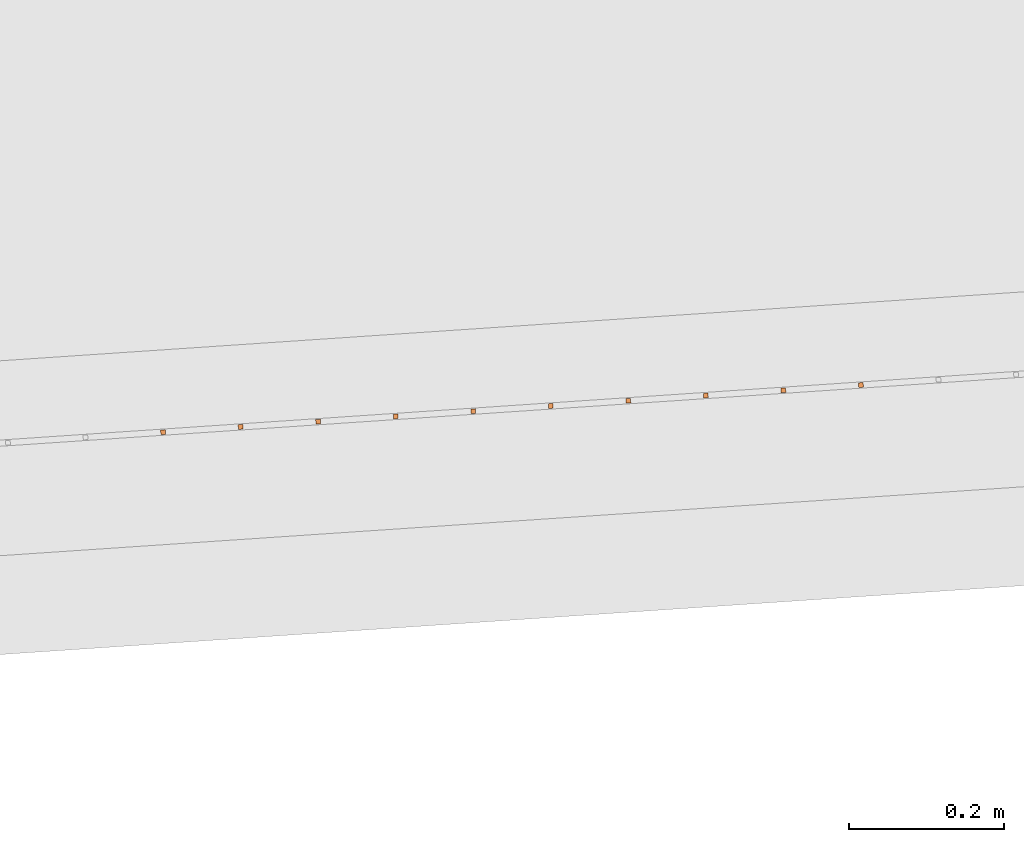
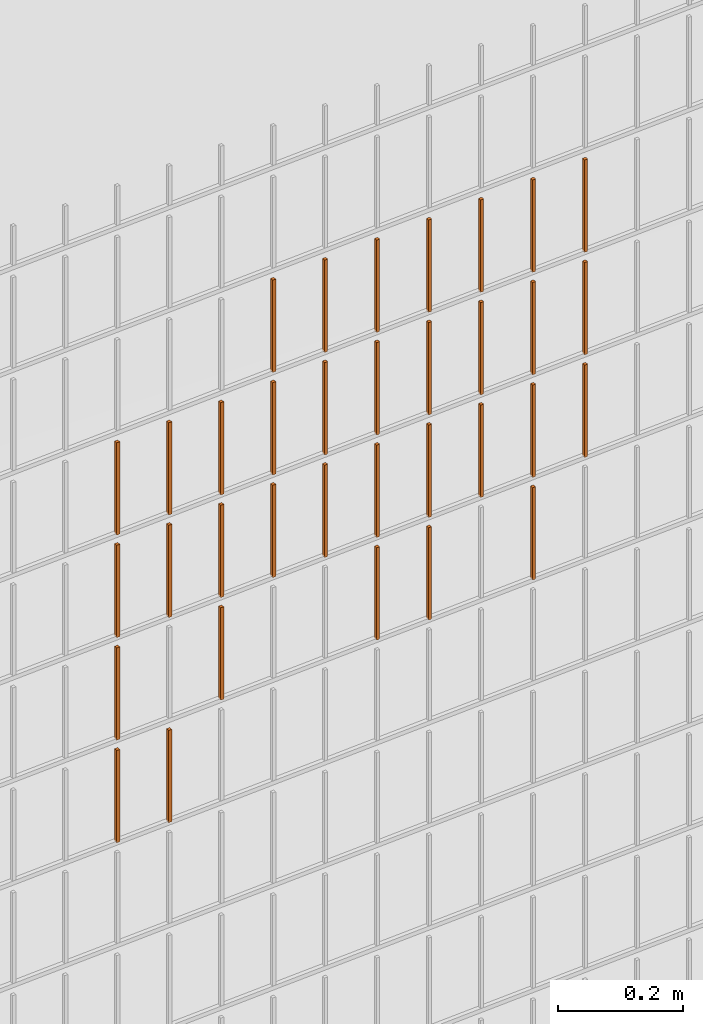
# One storey, part 332 of 1809: 34 proxies, 1 element without a shape of its own.
"""IFC2X3 building model written with IfcOpenShell, lengths in millimetres."""

from ifc_helpers import new_model, entity, si_unit, converted_unit, derived_unit, money_unit, direction, frame, origin_with_axes, place, context, subcontext, project, spatial, faceted_brep, source, transform, mapped, material, type_object, element, aggregate, save


model = new_model("IFC2X3")

# Units and contexts
model_context = context("Model", 3, precision=0.01, world=origin_with_axes(), true_north=direction((0.0, 1.0)))
body_context = subcontext(model_context, "Body", "Model", "MODEL_VIEW")
ifc_project = project(units=[si_unit("LENGTHUNIT", "METRE", prefix="MILLI"), si_unit("AREAUNIT", "SQUARE_METRE"), si_unit("VOLUMEUNIT", "CUBIC_METRE"), converted_unit("PLANEANGLEUNIT", "DEGREE", entity("IfcPlaneAngleMeasure", 0.0174532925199), si_unit("PLANEANGLEUNIT", "RADIAN"), dimensions=[0, 0, 0, 0, 0, 0, 0]), si_unit("SOLIDANGLEUNIT", "STERADIAN"), money_unit("EUR"), converted_unit("TIMEUNIT", "Year", entity("IfcTimeMeasure", 31556926.0), si_unit("TIMEUNIT", "SECOND"), dimensions=[0, 0, 1, 0, 0, 0, 0]), si_unit("MASSUNIT", "GRAM", prefix="KILO"), si_unit("THERMODYNAMICTEMPERATUREUNIT", "DEGREE_CELSIUS"), si_unit("LUMINOUSINTENSITYUNIT", "LUMEN"), si_unit("ENERGYUNIT", "JOULE", prefix="MEGA"), derived_unit("THERMALCONDUCTANCEUNIT", [(si_unit("POWERUNIT", "WATT"), 1), (si_unit("LENGTHUNIT", "METRE"), -1), (si_unit("THERMODYNAMICTEMPERATUREUNIT", "KELVIN"), -1)]), derived_unit("SPECIFICHEATCAPACITYUNIT", [(si_unit("ENERGYUNIT", "JOULE"), 1), (si_unit("MASSUNIT", "GRAM", prefix="KILO"), -1), (si_unit("THERMODYNAMICTEMPERATUREUNIT", "KELVIN"), -1)]), derived_unit("MASSDENSITYUNIT", [(si_unit("MASSUNIT", "GRAM", prefix="KILO"), 1), (si_unit("VOLUMEUNIT", "CUBIC_METRE"), -1)])], contexts=[model_context])

# Site, building, storey
site_placement = place(None, origin_with_axes())
site = spatial("IfcSite", under=ifc_project, at=site_placement, Name="Politse- ja Piirivalveameti ning Päästeameti ühishoone", CompositionType="ELEMENT")
building_placement = place(site_placement, origin_with_axes())
building = spatial("IfcBuilding", under=site, at=building_placement, Name="Politse- ja Piirivalveameti ning Päästeameti ühishoone", CompositionType="ELEMENT")
storey_placement = place(building_placement, origin_with_axes())
storey = spatial("IfcBuildingStorey", under=building, at=storey_placement, Name="Esimene korrus", CompositionType="ELEMENT", Elevation=0.0)

# Proxies
building_element_proxy_type_1 = type_object("IfcBuildingElementProxyType", Name="Railing Type", PredefinedType="NOTDEFINED")
proxy_1_placement = place(storey_placement, frame((89252.001212, -29183.4766571, 203.661247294), z_axis=(0.0, 0.0, 1.0), x_axis=(1.0, 0.0, 0.0)))
proxy_1 = element("IfcBuildingElementProxy", 1, at=proxy_1_placement, inside=storey, type_object=building_element_proxy_type_1, Name="PIIRDEAED")
ifc_material = material(Name="ET-03_Raud")
building_element_proxy_type_2 = type_object("IfcBuildingElementProxyType", Name="IfcBuildingElementProxy", PredefinedType="NOTDEFINED")
shared_shape_1 = source(origin_with_axes(), body_context, "Body", "Brep", [
    faceted_brep([(3.0, 3.0, -0.000752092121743), (-3.0, 3.0, -0.000752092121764), (-3.0, 3.0, 179.99926046), (3.0, 3.0, 179.99926046), (3.0, -3.0, 0.000752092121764), (-3.0, -3.0, 0.000752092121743), (-3.0, -3.0, 180.000764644), (3.0, -3.0, 180.000764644)], [[[0, 1, 2, 3]], [[0, 4, 5, 1]], [[1, 5, 6, 2]], [[3, 2, 6, 7]], [[4, 0, 3, 7]], [[5, 4, 7, 6]]]),
])
proxy_2_placement = place(proxy_1_placement, frame((-34049.1019761, -19597.6631034, 818.678914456), z_axis=(0.0, 0.0, 1.0), x_axis=(1.0, 0.0, 0.0)))
proxy_2 = element("IfcBuildingElementProxy", 2, at=proxy_2_placement, type_object=building_element_proxy_type_2, material=ifc_material, Name="BALUSTER - 001", context=body_context, shape_type="MappedRepresentation", body=[
    mapped(shared_shape_1, transform((0.0, 0.0, 0.0), x_axis=(-0.0673926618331, 0.997726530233, 0.0), y_axis=(-0.997726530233, -0.0673926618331, 0.0), z_axis=(0.0, 0.0, 1.0))),
])
shared_shape_2 = source(origin_with_axes(), body_context, "Body", "Brep", [
    faceted_brep([(3.0, 3.0, -0.000752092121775), (-3.0, 3.0, -0.000752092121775), (-3.0, 3.0, 179.99926046), (3.0, 3.0, 179.99926046), (3.0, -3.0, 0.000752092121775), (-3.0, -3.0, 0.000752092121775), (-3.0, -3.0, 180.000764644), (3.0, -3.0, 180.000764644)], [[[0, 1, 2, 3]], [[0, 4, 5, 1]], [[1, 5, 6, 2]], [[3, 2, 6, 7]], [[4, 0, 3, 7]], [[5, 4, 7, 6]]]),
])
proxy_3_placement = place(proxy_1_placement, frame((-33650.011364, -19570.7060387, 1218.77919341), z_axis=(0.0, 0.0, 1.0), x_axis=(1.0, 0.0, 0.0)))
proxy_3 = element("IfcBuildingElementProxy", 3, at=proxy_3_placement, type_object=building_element_proxy_type_2, material=ifc_material, Name="BALUSTER - 001", context=body_context, shape_type="MappedRepresentation", body=[
    mapped(shared_shape_2, transform((0.0, 0.0, 0.0), x_axis=(-0.0673926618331, 0.997726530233, 0.0), y_axis=(-0.997726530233, -0.0673926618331, 0.0), z_axis=(0.0, 0.0, 1.0))),
])
shared_shape_3 = source(origin_with_axes(), body_context, "Body", "Brep", [
    faceted_brep([(3.0, 3.0, -0.000752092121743), (-3.0, 3.0, -0.000752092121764), (-3.0, 3.0, 179.99926046), (3.0, 3.0, 179.99926046), (3.0, -3.0, 0.000752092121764), (-3.0, -3.0, 0.000752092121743), (-3.0, -3.0, 180.000764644), (3.0, -3.0, 180.000764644)], [[[0, 1, 2, 3]], [[0, 4, 5, 1]], [[1, 5, 6, 2]], [[3, 2, 6, 7]], [[4, 0, 3, 7]], [[5, 4, 7, 6]]]),
])
proxy_4_placement = place(proxy_1_placement, frame((-33949.3293231, -19590.9238372, 1218.70398419), z_axis=(0.0, 0.0, 1.0), x_axis=(1.0, 0.0, 0.0)))
proxy_4 = element("IfcBuildingElementProxy", 4, at=proxy_4_placement, type_object=building_element_proxy_type_2, material=ifc_material, Name="BALUSTER - 001", context=body_context, shape_type="MappedRepresentation", body=[
    mapped(shared_shape_3, transform((0.0, 0.0, 0.0), x_axis=(-0.0673926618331, 0.997726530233, 0.0), y_axis=(-0.997726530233, -0.0673926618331, 0.0), z_axis=(0.0, 0.0, 1.0))),
])
shared_shape_4 = source(origin_with_axes(), body_context, "Body", "Brep", [
    faceted_brep([(3.0, 3.0, -0.000752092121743), (-3.0, 3.0, -0.000752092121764), (-3.0, 3.0, 179.99926046), (3.0, 3.0, 179.99926046), (3.0, -3.0, 0.000752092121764), (-3.0, -3.0, 0.000752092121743), (-3.0, -3.0, 180.000764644), (3.0, -3.0, 180.000764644)], [[[0, 1, 2, 3]], [[0, 4, 5, 1]], [[1, 5, 6, 2]], [[3, 2, 6, 7]], [[4, 0, 3, 7]], [[5, 4, 7, 6]]]),
])
proxy_5_placement = place(proxy_1_placement, frame((-33949.3293231, -19590.9238372, 1418.70398419), z_axis=(0.0, 0.0, 1.0), x_axis=(1.0, 0.0, 0.0)))
proxy_5 = element("IfcBuildingElementProxy", 5, at=proxy_5_placement, type_object=building_element_proxy_type_2, material=ifc_material, Name="BALUSTER - 001", context=body_context, shape_type="MappedRepresentation", body=[
    mapped(shared_shape_4, transform((0.0, 0.0, 0.0), x_axis=(-0.0673926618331, 0.997726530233, 0.0), y_axis=(-0.997726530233, -0.0673926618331, 0.0), z_axis=(0.0, 0.0, 1.0))),
])
shared_shape_5 = source(origin_with_axes(), body_context, "Body", "Brep", [
    faceted_brep([(3.0, 3.0, -0.000752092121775), (-3.0, 3.0, -0.000752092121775), (-3.0, 3.0, 179.99926046), (3.0, 3.0, 179.99926046), (3.0, -3.0, 0.000752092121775), (-3.0, -3.0, 0.000752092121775), (-3.0, -3.0, 180.000764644), (3.0, -3.0, 180.000764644)], [[[0, 1, 2, 3]], [[0, 4, 5, 1]], [[1, 5, 6, 2]], [[3, 2, 6, 7]], [[4, 0, 3, 7]], [[5, 4, 7, 6]]]),
])
proxy_6_placement = place(proxy_1_placement, frame((-33650.011364, -19570.7060387, 1418.77919341), z_axis=(0.0, 0.0, 1.0), x_axis=(1.0, 0.0, 0.0)))
proxy_6 = element("IfcBuildingElementProxy", 6, at=proxy_6_placement, type_object=building_element_proxy_type_2, material=ifc_material, Name="BALUSTER - 001", context=body_context, shape_type="MappedRepresentation", body=[
    mapped(shared_shape_5, transform((0.0, 0.0, 0.0), x_axis=(-0.0673926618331, 0.997726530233, 0.0), y_axis=(-0.997726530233, -0.0673926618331, 0.0), z_axis=(0.0, 0.0, 1.0))),
])
proxy_7_placement = place(proxy_1_placement, frame((-33650.011364, -19570.7060387, 1618.77919341), z_axis=(0.0, 0.0, 1.0), x_axis=(1.0, 0.0, 0.0)))
proxy_7 = element("IfcBuildingElementProxy", 7, at=proxy_7_placement, type_object=building_element_proxy_type_2, material=ifc_material, Name="BALUSTER - 001", context=body_context, shape_type="MappedRepresentation", body=[
    mapped(shared_shape_5, transform((0.0, 0.0, 0.0), x_axis=(-0.0673926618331, 0.997726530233, 0.0), y_axis=(-0.997726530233, -0.0673926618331, 0.0), z_axis=(0.0, 0.0, 1.0))),
])
shared_shape_6 = source(origin_with_axes(), body_context, "Body", "Brep", [
    faceted_brep([(3.0, 3.0, -0.000752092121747), (-3.0, 3.0, -0.00075209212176), (-3.00000000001, 3.0, 179.99926046), (2.99999999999, 3.0, 179.99926046), (3.0, -3.0, 0.00075209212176), (-3.0, -3.0, 0.000752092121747), (-3.00000000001, -3.0, 180.000764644), (2.99999999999, -3.0, 180.000764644)], [[[0, 1, 2, 3]], [[0, 4, 5, 1]], [[1, 5, 6, 2]], [[3, 2, 6, 7]], [[4, 0, 3, 7]], [[5, 4, 7, 6]]]),
])
proxy_8_placement = place(proxy_1_placement, frame((-33949.3293231, -19590.9238372, 1018.70398419), z_axis=(0.0, 0.0, 1.0), x_axis=(1.0, 0.0, 0.0)))
proxy_8 = element("IfcBuildingElementProxy", 8, at=proxy_8_placement, type_object=building_element_proxy_type_2, material=ifc_material, Name="BALUSTER - 001", context=body_context, shape_type="MappedRepresentation", body=[
    mapped(shared_shape_6, transform((0.0, 0.0, 0.0), x_axis=(-0.0673926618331, 0.997726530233, 0.0), y_axis=(-0.997726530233, -0.0673926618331, 0.0), z_axis=(0.0, 0.0, 1.0))),
])
shared_shape_7 = source(origin_with_axes(), body_context, "Body", "Brep", [
    faceted_brep([(3.0, 3.0, -0.000752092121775), (-3.0, 3.0, -0.000752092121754), (-3.0, 3.0, 179.99926046), (3.0, 3.0, 179.99926046), (3.0, -3.0, 0.000752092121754), (-3.0, -3.0, 0.000752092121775), (-3.0, -3.0, 180.000764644), (3.0, -3.0, 180.000764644)], [[[0, 1, 2, 3]], [[0, 4, 5, 1]], [[1, 5, 6, 2]], [[3, 2, 6, 7]], [[4, 0, 3, 7]], [[5, 4, 7, 6]]]),
])
proxy_9_placement = place(proxy_1_placement, frame((-34049.1019761, -19597.6631034, 1218.67891446), z_axis=(0.0, 0.0, 1.0), x_axis=(1.0, 0.0, 0.0)))
proxy_9 = element("IfcBuildingElementProxy", 9, at=proxy_9_placement, type_object=building_element_proxy_type_2, material=ifc_material, Name="BALUSTER - 001", context=body_context, shape_type="MappedRepresentation", body=[
    mapped(shared_shape_7, transform((0.0, 0.0, 0.0), x_axis=(-0.0673926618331, 0.997726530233, 0.0), y_axis=(-0.997726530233, -0.0673926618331, 0.0), z_axis=(0.0, 0.0, 1.0))),
])
shared_shape_8 = source(origin_with_axes(), body_context, "Body", "Brep", [
    faceted_brep([(3.0, 3.0, -0.000752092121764), (-3.0, 3.0, -0.000752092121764), (-3.0, 3.0, 179.99926046), (3.0, 3.0, 179.99926046), (3.0, -3.0, 0.000752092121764), (-3.0, -3.0, 0.000752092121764), (-3.0, -3.0, 180.000764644), (3.0, -3.0, 180.000764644)], [[[0, 1, 2, 3]], [[0, 4, 5, 1]], [[1, 5, 6, 2]], [[3, 2, 6, 7]], [[4, 0, 3, 7]], [[5, 4, 7, 6]]]),
])
proxy_10_placement = place(proxy_1_placement, frame((-33849.5566701, -19584.1845711, 1218.72905393), z_axis=(0.0, 0.0, 1.0), x_axis=(1.0, 0.0, 0.0)))
proxy_10 = element("IfcBuildingElementProxy", 10, at=proxy_10_placement, type_object=building_element_proxy_type_2, material=ifc_material, Name="BALUSTER - 001", context=body_context, shape_type="MappedRepresentation", body=[
    mapped(shared_shape_8, transform((0.0, 0.0, 0.0), x_axis=(-0.0673926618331, 0.997726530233, 0.0), y_axis=(-0.997726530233, -0.0673926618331, 0.0), z_axis=(0.0, 0.0, 1.0))),
])
shared_shape_9 = source(origin_with_axes(), body_context, "Body", "Brep", [
    faceted_brep([(3.0, 3.0, -0.000752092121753), (-3.0, 3.0, -0.000752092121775), (-3.0, 3.0, 179.99926046), (3.0, 3.0, 179.99926046), (3.0, -3.0, 0.000752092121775), (-3.0, -3.0, 0.000752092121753), (-3.0, -3.0, 180.000764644), (3.0, -3.0, 180.000764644)], [[[0, 1, 2, 3]], [[0, 4, 5, 1]], [[1, 5, 6, 2]], [[3, 2, 6, 7]], [[4, 0, 3, 7]], [[5, 4, 7, 6]]]),
])
proxy_11_placement = place(proxy_1_placement, frame((-33350.693405, -19550.4882401, 1418.85440262), z_axis=(0.0, 0.0, 1.0), x_axis=(1.0, 0.0, 0.0)))
proxy_11 = element("IfcBuildingElementProxy", 11, at=proxy_11_placement, type_object=building_element_proxy_type_2, material=ifc_material, Name="BALUSTER - 001", context=body_context, shape_type="MappedRepresentation", body=[
    mapped(shared_shape_9, transform((0.0, 0.0, 0.0), x_axis=(-0.0673926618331, 0.997726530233, 0.0), y_axis=(-0.997726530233, -0.0673926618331, 0.0), z_axis=(0.0, 0.0, 1.0))),
])
proxy_12_placement = place(proxy_1_placement, frame((-34148.8746292, -19604.4023696, 1418.65384472), z_axis=(0.0, 0.0, 1.0), x_axis=(1.0, 0.0, 0.0)))
proxy_12 = element("IfcBuildingElementProxy", 12, at=proxy_12_placement, type_object=building_element_proxy_type_2, material=ifc_material, Name="BALUSTER - 001", context=body_context, shape_type="MappedRepresentation", body=[
    mapped(shared_shape_9, transform((0.0, 0.0, 0.0), x_axis=(-0.0673926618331, 0.997726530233, 0.0), y_axis=(-0.997726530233, -0.0673926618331, 0.0), z_axis=(0.0, 0.0, 1.0))),
])
shared_shape_10 = source(origin_with_axes(), body_context, "Body", "Brep", [
    faceted_brep([(3.0, 3.0, -0.000752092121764), (-3.0, 3.0, -0.000752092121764), (-3.0, 3.0, 179.99926046), (3.0, 3.0, 179.99926046), (3.0, -3.0, 0.000752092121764), (-3.0, -3.0, 0.000752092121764), (-3.0, -3.0, 180.000764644), (3.0, -3.0, 180.000764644)], [[[0, 1, 2, 3]], [[0, 4, 5, 1]], [[1, 5, 6, 2]], [[3, 2, 6, 7]], [[4, 0, 3, 7]], [[5, 4, 7, 6]]]),
])
proxy_13_placement = place(proxy_1_placement, frame((-33450.466058, -19557.2275063, 1418.82933288), z_axis=(0.0, 0.0, 1.0), x_axis=(1.0, 0.0, 0.0)))
proxy_13 = element("IfcBuildingElementProxy", 13, at=proxy_13_placement, type_object=building_element_proxy_type_2, material=ifc_material, Name="BALUSTER - 001", context=body_context, shape_type="MappedRepresentation", body=[
    mapped(shared_shape_10, transform((0.0, 0.0, 0.0), x_axis=(-0.0673926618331, 0.997726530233, 0.0), y_axis=(-0.997726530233, -0.0673926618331, 0.0), z_axis=(0.0, 0.0, 1.0))),
])
shared_shape_11 = source(origin_with_axes(), body_context, "Body", "Brep", [
    faceted_brep([(3.0, 3.0, -0.000752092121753), (-3.0, 3.0, -0.000752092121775), (-3.0, 3.0, 179.99926046), (3.0, 3.0, 179.99926046), (3.0, -3.0, 0.000752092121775), (-3.0, -3.0, 0.000752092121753), (-3.0, -3.0, 180.000764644), (3.0, -3.0, 180.000764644)], [[[0, 1, 2, 3]], [[0, 4, 5, 1]], [[1, 5, 6, 2]], [[3, 2, 6, 7]], [[4, 0, 3, 7]], [[5, 4, 7, 6]]]),
])
proxy_14_placement = place(proxy_1_placement, frame((-33350.693405, -19550.4882401, 1618.85440262), z_axis=(0.0, 0.0, 1.0), x_axis=(1.0, 0.0, 0.0)))
proxy_14 = element("IfcBuildingElementProxy", 14, at=proxy_14_placement, type_object=building_element_proxy_type_2, material=ifc_material, Name="BALUSTER - 001", context=body_context, shape_type="MappedRepresentation", body=[
    mapped(shared_shape_11, transform((0.0, 0.0, 0.0), x_axis=(-0.0673926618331, 0.997726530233, 0.0), y_axis=(-0.997726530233, -0.0673926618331, 0.0), z_axis=(0.0, 0.0, 1.0))),
])
shared_shape_12 = source(origin_with_axes(), body_context, "Body", "Brep", [
    faceted_brep([(3.0, 3.0, -0.000752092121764), (-3.0, 3.0, -0.000752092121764), (-3.0, 3.0, 179.99926046), (3.0, 3.0, 179.99926046), (3.0, -3.0, 0.000752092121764), (-3.0, -3.0, 0.000752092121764), (-3.0, -3.0, 180.000764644), (3.0, -3.0, 180.000764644)], [[[0, 1, 2, 3]], [[0, 4, 5, 1]], [[1, 5, 6, 2]], [[3, 2, 6, 7]], [[4, 0, 3, 7]], [[5, 4, 7, 6]]]),
])
proxy_15_placement = place(proxy_1_placement, frame((-33450.466058, -19557.2275063, 1218.82933288), z_axis=(0.0, 0.0, 1.0), x_axis=(1.0, 0.0, 0.0)))
proxy_15 = element("IfcBuildingElementProxy", 15, at=proxy_15_placement, type_object=building_element_proxy_type_2, material=ifc_material, Name="BALUSTER - 001", context=body_context, shape_type="MappedRepresentation", body=[
    mapped(shared_shape_12, transform((0.0, 0.0, 0.0), x_axis=(-0.0673926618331, 0.997726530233, 0.0), y_axis=(-0.997726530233, -0.0673926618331, 0.0), z_axis=(0.0, 0.0, 1.0))),
])
shared_shape_13 = source(origin_with_axes(), body_context, "Body", "Brep", [
    faceted_brep([(3.0, 3.0, -0.000752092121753), (-3.0, 3.0, -0.000752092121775), (-3.0, 3.0, 179.99926046), (3.0, 3.0, 179.99926046), (3.0, -3.0, 0.000752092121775), (-3.0, -3.0, 0.000752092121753), (-3.0, -3.0, 180.000764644), (3.0, -3.0, 180.000764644)], [[[0, 1, 2, 3]], [[0, 4, 5, 1]], [[1, 5, 6, 2]], [[3, 2, 6, 7]], [[4, 0, 3, 7]], [[5, 4, 7, 6]]]),
])
proxy_16_placement = place(proxy_1_placement, frame((-34148.8746292, -19604.4023696, 818.653844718), z_axis=(0.0, 0.0, 1.0), x_axis=(1.0, 0.0, 0.0)))
proxy_16 = element("IfcBuildingElementProxy", 16, at=proxy_16_placement, type_object=building_element_proxy_type_2, material=ifc_material, Name="BALUSTER - 001", context=body_context, shape_type="MappedRepresentation", body=[
    mapped(shared_shape_13, transform((0.0, 0.0, 0.0), x_axis=(-0.0673926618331, 0.997726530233, 0.0), y_axis=(-0.997726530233, -0.0673926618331, 0.0), z_axis=(0.0, 0.0, 1.0))),
])
proxy_17_placement = place(proxy_1_placement, frame((-33350.693405, -19550.4882401, 1218.85440262), z_axis=(0.0, 0.0, 1.0), x_axis=(1.0, 0.0, 0.0)))
proxy_17 = element("IfcBuildingElementProxy", 17, at=proxy_17_placement, type_object=building_element_proxy_type_2, material=ifc_material, Name="BALUSTER - 001", context=body_context, shape_type="MappedRepresentation", body=[
    mapped(shared_shape_13, transform((0.0, 0.0, 0.0), x_axis=(-0.0673926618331, 0.997726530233, 0.0), y_axis=(-0.997726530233, -0.0673926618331, 0.0), z_axis=(0.0, 0.0, 1.0))),
])
proxy_18_placement = place(proxy_1_placement, frame((-34148.8746292, -19604.4023696, 1218.65384472), z_axis=(0.0, 0.0, 1.0), x_axis=(1.0, 0.0, 0.0)))
proxy_18 = element("IfcBuildingElementProxy", 18, at=proxy_18_placement, type_object=building_element_proxy_type_2, material=ifc_material, Name="BALUSTER - 001", context=body_context, shape_type="MappedRepresentation", body=[
    mapped(shared_shape_13, transform((0.0, 0.0, 0.0), x_axis=(-0.0673926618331, 0.997726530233, 0.0), y_axis=(-0.997726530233, -0.0673926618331, 0.0), z_axis=(0.0, 0.0, 1.0))),
])
shared_shape_14 = source(origin_with_axes(), body_context, "Body", "Brep", [
    faceted_brep([(3.0, 3.0, -0.000752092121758), (-3.0, 3.0, -0.00075209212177), (-3.00000000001, 3.0, 179.99926046), (2.99999999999, 3.0, 179.99926046), (3.0, -3.0, 0.00075209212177), (-3.0, -3.0, 0.000752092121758), (-3.00000000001, -3.0, 180.000764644), (2.99999999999, -3.0, 180.000764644)], [[[0, 1, 2, 3]], [[0, 4, 5, 1]], [[1, 5, 6, 2]], [[3, 2, 6, 7]], [[4, 0, 3, 7]], [[5, 4, 7, 6]]]),
])
proxy_19_placement = place(proxy_1_placement, frame((-33350.693405, -19550.4882401, 1018.85440262), z_axis=(0.0, 0.0, 1.0), x_axis=(1.0, 0.0, 0.0)))
proxy_19 = element("IfcBuildingElementProxy", 19, at=proxy_19_placement, type_object=building_element_proxy_type_2, material=ifc_material, Name="BALUSTER - 001", context=body_context, shape_type="MappedRepresentation", body=[
    mapped(shared_shape_14, transform((0.0, 0.0, 0.0), x_axis=(-0.0673926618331, 0.997726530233, 0.0), y_axis=(-0.997726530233, -0.0673926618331, 0.0), z_axis=(0.0, 0.0, 1.0))),
])
shared_shape_15 = source(origin_with_axes(), body_context, "Body", "Brep", [
    faceted_brep([(3.0, 3.0, -0.000752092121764), (-3.0, 3.0, -0.000752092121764), (-3.0, 3.0, 179.99926046), (3.0, 3.0, 179.99926046), (3.0, -3.0, 0.000752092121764), (-3.0, -3.0, 0.000752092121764), (-3.0, -3.0, 180.000764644), (3.0, -3.0, 180.000764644)], [[[0, 1, 2, 3]], [[0, 4, 5, 1]], [[1, 5, 6, 2]], [[3, 2, 6, 7]], [[4, 0, 3, 7]], [[5, 4, 7, 6]]]),
])
proxy_20_placement = place(proxy_1_placement, frame((-33450.466058, -19557.2275063, 1618.82933288), z_axis=(0.0, 0.0, 1.0), x_axis=(1.0, 0.0, 0.0)))
proxy_20 = element("IfcBuildingElementProxy", 20, at=proxy_20_placement, type_object=building_element_proxy_type_2, material=ifc_material, Name="BALUSTER - 001", context=body_context, shape_type="MappedRepresentation", body=[
    mapped(shared_shape_15, transform((0.0, 0.0, 0.0), x_axis=(-0.0673926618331, 0.997726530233, 0.0), y_axis=(-0.997726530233, -0.0673926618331, 0.0), z_axis=(0.0, 0.0, 1.0))),
])
shared_shape_16 = source(origin_with_axes(), body_context, "Body", "Brep", [
    faceted_brep([(3.0, 3.0, -0.000752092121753), (-3.0, 3.0, -0.000752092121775), (-3.0, 3.0, 179.99926046), (3.0, 3.0, 179.99926046), (3.0, -3.0, 0.000752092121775), (-3.0, -3.0, 0.000752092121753), (-3.0, -3.0, 180.000764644), (3.0, -3.0, 180.000764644)], [[[0, 1, 2, 3]], [[0, 4, 5, 1]], [[1, 5, 6, 2]], [[3, 2, 6, 7]], [[4, 0, 3, 7]], [[5, 4, 7, 6]]]),
])
proxy_21_placement = place(proxy_1_placement, frame((-33550.238711, -19563.9667725, 1218.80426314), z_axis=(0.0, 0.0, 1.0), x_axis=(1.0, 0.0, 0.0)))
proxy_21 = element("IfcBuildingElementProxy", 21, at=proxy_21_placement, type_object=building_element_proxy_type_2, material=ifc_material, Name="BALUSTER - 001", context=body_context, shape_type="MappedRepresentation", body=[
    mapped(shared_shape_16, transform((0.0, 0.0, 0.0), x_axis=(-0.0673926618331, 0.997726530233, 0.0), y_axis=(-0.997726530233, -0.0673926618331, 0.0), z_axis=(0.0, 0.0, 1.0))),
])
shared_shape_17 = source(origin_with_axes(), body_context, "Body", "Brep", [
    faceted_brep([(3.0, 3.0, -0.000752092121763), (-3.0, 3.0, -0.000752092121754), (-3.00000000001, 2.99999999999, 179.99926046), (2.99999999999, 2.99999999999, 179.99926046), (3.0, -3.0, 0.000752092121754), (-3.0, -3.0, 0.000752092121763), (-3.00000000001, -3.00000000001, 180.000764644), (2.99999999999, -3.00000000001, 180.000764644)], [[[0, 1, 2, 3]], [[0, 4, 5, 1]], [[1, 5, 6, 2]], [[3, 2, 6, 7]], [[4, 0, 3, 7]], [[5, 4, 7, 6]]]),
])
proxy_22_placement = place(proxy_1_placement, frame((-33550.238711, -19563.9667725, 1018.80426314), z_axis=(0.0, 0.0, 1.0), x_axis=(1.0, 0.0, 0.0)))
proxy_22 = element("IfcBuildingElementProxy", 22, at=proxy_22_placement, type_object=building_element_proxy_type_2, material=ifc_material, Name="BALUSTER - 001", context=body_context, shape_type="MappedRepresentation", body=[
    mapped(shared_shape_17, transform((0.0, 0.0, 0.0), x_axis=(-0.0673926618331, 0.997726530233, 0.0), y_axis=(-0.997726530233, -0.0673926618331, 0.0), z_axis=(0.0, 0.0, 1.0))),
])
shared_shape_18 = source(origin_with_axes(), body_context, "Body", "Brep", [
    faceted_brep([(3.0, 3.0, -0.000752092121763), (-3.0, 3.0, -0.000752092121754), (-3.00000000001, 2.99999999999, 179.99926046), (2.99999999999, 2.99999999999, 179.99926046), (3.0, -3.0, 0.000752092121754), (-3.0, -3.0, 0.000752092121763), (-3.00000000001, -3.00000000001, 180.000764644), (2.99999999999, -3.00000000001, 180.000764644)], [[[0, 1, 2, 3]], [[0, 4, 5, 1]], [[1, 5, 6, 2]], [[3, 2, 6, 7]], [[4, 0, 3, 7]], [[5, 4, 7, 6]]]),
])
proxy_23_placement = place(proxy_1_placement, frame((-34148.8746292, -19604.4023696, 1018.65384472), z_axis=(0.0, 0.0, 1.0), x_axis=(1.0, 0.0, 0.0)))
proxy_23 = element("IfcBuildingElementProxy", 23, at=proxy_23_placement, type_object=building_element_proxy_type_2, material=ifc_material, Name="BALUSTER - 001", context=body_context, shape_type="MappedRepresentation", body=[
    mapped(shared_shape_18, transform((0.0, 0.0, 0.0), x_axis=(-0.0673926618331, 0.997726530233, 0.0), y_axis=(-0.997726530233, -0.0673926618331, 0.0), z_axis=(0.0, 0.0, 1.0))),
])
shared_shape_19 = source(origin_with_axes(), body_context, "Body", "Brep", [
    faceted_brep([(3.0, 3.0, -0.000752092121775), (-3.0, 3.0, -0.000752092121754), (-3.0, 3.0, 179.99926046), (3.0, 3.0, 179.99926046), (3.0, -3.0, 0.000752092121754), (-3.0, -3.0, 0.000752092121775), (-3.0, -3.0, 180.000764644), (3.0, -3.0, 180.000764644)], [[[0, 1, 2, 3]], [[0, 4, 5, 1]], [[1, 5, 6, 2]], [[3, 2, 6, 7]], [[4, 0, 3, 7]], [[5, 4, 7, 6]]]),
])
proxy_24_placement = place(proxy_1_placement, frame((-33749.7840171, -19577.4453049, 1618.75412367), z_axis=(0.0, 0.0, 1.0), x_axis=(1.0, 0.0, 0.0)))
proxy_24 = element("IfcBuildingElementProxy", 24, at=proxy_24_placement, type_object=building_element_proxy_type_2, material=ifc_material, Name="BALUSTER - 001", context=body_context, shape_type="MappedRepresentation", body=[
    mapped(shared_shape_19, transform((0.0, 0.0, 0.0), x_axis=(-0.0673926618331, 0.997726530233, 0.0), y_axis=(-0.997726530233, -0.0673926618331, 0.0), z_axis=(0.0, 0.0, 1.0))),
])
shared_shape_20 = source(origin_with_axes(), body_context, "Body", "Brep", [
    faceted_brep([(3.0, 3.0, -0.000752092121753), (-3.0, 3.0, -0.000752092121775), (-3.0, 3.0, 179.99926046), (3.0, 3.0, 179.99926046), (3.0, -3.0, 0.000752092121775), (-3.0, -3.0, 0.000752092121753), (-3.0, -3.0, 180.000764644), (3.0, -3.0, 180.000764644)], [[[0, 1, 2, 3]], [[0, 4, 5, 1]], [[1, 5, 6, 2]], [[3, 2, 6, 7]], [[4, 0, 3, 7]], [[5, 4, 7, 6]]]),
])
proxy_25_placement = place(proxy_1_placement, frame((-33550.238711, -19563.9667725, 1418.80426314), z_axis=(0.0, 0.0, 1.0), x_axis=(1.0, 0.0, 0.0)))
proxy_25 = element("IfcBuildingElementProxy", 25, at=proxy_25_placement, type_object=building_element_proxy_type_2, material=ifc_material, Name="BALUSTER - 001", context=body_context, shape_type="MappedRepresentation", body=[
    mapped(shared_shape_20, transform((0.0, 0.0, 0.0), x_axis=(-0.0673926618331, 0.997726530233, 0.0), y_axis=(-0.997726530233, -0.0673926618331, 0.0), z_axis=(0.0, 0.0, 1.0))),
])
proxy_26_placement = place(proxy_1_placement, frame((-33550.238711, -19563.9667725, 1618.80426314), z_axis=(0.0, 0.0, 1.0), x_axis=(1.0, 0.0, 0.0)))
proxy_26 = element("IfcBuildingElementProxy", 26, at=proxy_26_placement, type_object=building_element_proxy_type_2, material=ifc_material, Name="BALUSTER - 001", context=body_context, shape_type="MappedRepresentation", body=[
    mapped(shared_shape_20, transform((0.0, 0.0, 0.0), x_axis=(-0.0673926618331, 0.997726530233, 0.0), y_axis=(-0.997726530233, -0.0673926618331, 0.0), z_axis=(0.0, 0.0, 1.0))),
])
shared_shape_21 = source(origin_with_axes(), body_context, "Body", "Brep", [
    faceted_brep([(3.0, 3.0, -0.000752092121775), (-3.0, 3.0, -0.000752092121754), (-3.0, 3.0, 179.99926046), (3.0, 3.0, 179.99926046), (3.0, -3.0, 0.000752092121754), (-3.0, -3.0, 0.000752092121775), (-3.0, -3.0, 180.000764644), (3.0, -3.0, 180.000764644)], [[[0, 1, 2, 3]], [[0, 4, 5, 1]], [[1, 5, 6, 2]], [[3, 2, 6, 7]], [[4, 0, 3, 7]], [[5, 4, 7, 6]]]),
])
proxy_27_placement = place(proxy_1_placement, frame((-34049.1019761, -19597.6631034, 1418.67891446), z_axis=(0.0, 0.0, 1.0), x_axis=(1.0, 0.0, 0.0)))
proxy_27 = element("IfcBuildingElementProxy", 27, at=proxy_27_placement, type_object=building_element_proxy_type_2, material=ifc_material, Name="BALUSTER - 001", context=body_context, shape_type="MappedRepresentation", body=[
    mapped(shared_shape_21, transform((0.0, 0.0, 0.0), x_axis=(-0.0673926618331, 0.997726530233, 0.0), y_axis=(-0.997726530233, -0.0673926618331, 0.0), z_axis=(0.0, 0.0, 1.0))),
])
shared_shape_22 = source(origin_with_axes(), body_context, "Body", "Brep", [
    faceted_brep([(3.0, 3.0, -0.000752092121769), (-3.0, 3.0, -0.00075209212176), (-3.00000000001, 3.0, 179.99926046), (2.99999999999, 3.0, 179.99926046), (3.0, -3.0, 0.00075209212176), (-3.0, -3.0, 0.000752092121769), (-3.00000000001, -3.0, 180.000764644), (2.99999999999, -3.0, 180.000764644)], [[[0, 1, 2, 3]], [[0, 4, 5, 1]], [[1, 5, 6, 2]], [[3, 2, 6, 7]], [[4, 0, 3, 7]], [[5, 4, 7, 6]]]),
])
proxy_28_placement = place(proxy_1_placement, frame((-33650.011364, -19570.7060387, 1018.77919341), z_axis=(0.0, 0.0, 1.0), x_axis=(1.0, 0.0, 0.0)))
proxy_28 = element("IfcBuildingElementProxy", 28, at=proxy_28_placement, type_object=building_element_proxy_type_2, material=ifc_material, Name="BALUSTER - 001", context=body_context, shape_type="MappedRepresentation", body=[
    mapped(shared_shape_22, transform((0.0, 0.0, 0.0), x_axis=(-0.0673926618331, 0.997726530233, 0.0), y_axis=(-0.997726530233, -0.0673926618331, 0.0), z_axis=(0.0, 0.0, 1.0))),
])
shared_shape_23 = source(origin_with_axes(), body_context, "Body", "Brep", [
    faceted_brep([(3.0, 3.0, -0.000752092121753), (-3.0, 3.0, -0.000752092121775), (-3.0, 3.0, 179.99926046), (3.0, 3.0, 179.99926046), (3.0, -3.0, 0.000752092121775), (-3.0, -3.0, 0.000752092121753), (-3.0, -3.0, 180.000764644), (3.0, -3.0, 180.000764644)], [[[0, 1, 2, 3]], [[0, 4, 5, 1]], [[1, 5, 6, 2]], [[3, 2, 6, 7]], [[4, 0, 3, 7]], [[5, 4, 7, 6]]]),
])
proxy_29_placement = place(proxy_1_placement, frame((-33250.9207519, -19543.748974, 1218.87947235), z_axis=(0.0, 0.0, 1.0), x_axis=(1.0, 0.0, 0.0)))
proxy_29 = element("IfcBuildingElementProxy", 29, at=proxy_29_placement, type_object=building_element_proxy_type_2, material=ifc_material, Name="BALUSTER - 001", context=body_context, shape_type="MappedRepresentation", body=[
    mapped(shared_shape_23, transform((0.0, 0.0, 0.0), x_axis=(-0.0673926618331, 0.997726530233, 0.0), y_axis=(-0.997726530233, -0.0673926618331, 0.0), z_axis=(0.0, 0.0, 1.0))),
])
shared_shape_24 = source(origin_with_axes(), body_context, "Body", "Brep", [
    faceted_brep([(3.0, 3.0, -0.000752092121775), (-3.0, 3.0, -0.000752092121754), (-3.0, 3.0, 179.99926046), (3.0, 3.0, 179.99926046), (3.0, -3.0, 0.000752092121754), (-3.0, -3.0, 0.000752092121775), (-3.0, -3.0, 180.000764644), (3.0, -3.0, 180.000764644)], [[[0, 1, 2, 3]], [[0, 4, 5, 1]], [[1, 5, 6, 2]], [[3, 2, 6, 7]], [[4, 0, 3, 7]], [[5, 4, 7, 6]]]),
])
proxy_30_placement = place(proxy_1_placement, frame((-33749.7840171, -19577.4453049, 1218.75412367), z_axis=(0.0, 0.0, 1.0), x_axis=(1.0, 0.0, 0.0)))
proxy_30 = element("IfcBuildingElementProxy", 30, at=proxy_30_placement, type_object=building_element_proxy_type_2, material=ifc_material, Name="BALUSTER - 001", context=body_context, shape_type="MappedRepresentation", body=[
    mapped(shared_shape_24, transform((0.0, 0.0, 0.0), x_axis=(-0.0673926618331, 0.997726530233, 0.0), y_axis=(-0.997726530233, -0.0673926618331, 0.0), z_axis=(0.0, 0.0, 1.0))),
])
shared_shape_25 = source(origin_with_axes(), body_context, "Body", "Brep", [
    faceted_brep([(3.0, 3.0, -0.000752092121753), (-3.0, 3.0, -0.000752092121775), (-3.0, 3.0, 179.99926046), (3.0, 3.0, 179.99926046), (3.0, -3.0, 0.000752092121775), (-3.0, -3.0, 0.000752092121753), (-3.0, -3.0, 180.000764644), (3.0, -3.0, 180.000764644)], [[[0, 1, 2, 3]], [[0, 4, 5, 1]], [[1, 5, 6, 2]], [[3, 2, 6, 7]], [[4, 0, 3, 7]], [[5, 4, 7, 6]]]),
])
proxy_31_placement = place(proxy_1_placement, frame((-33250.9207519, -19543.748974, 1418.87947235), z_axis=(0.0, 0.0, 1.0), x_axis=(1.0, 0.0, 0.0)))
proxy_31 = element("IfcBuildingElementProxy", 31, at=proxy_31_placement, type_object=building_element_proxy_type_2, material=ifc_material, Name="BALUSTER - 001", context=body_context, shape_type="MappedRepresentation", body=[
    mapped(shared_shape_25, transform((0.0, 0.0, 0.0), x_axis=(-0.0673926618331, 0.997726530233, 0.0), y_axis=(-0.997726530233, -0.0673926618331, 0.0), z_axis=(0.0, 0.0, 1.0))),
])
proxy_32_placement = place(proxy_1_placement, frame((-33250.9207519, -19543.748974, 1618.87947235), z_axis=(0.0, 0.0, 1.0), x_axis=(1.0, 0.0, 0.0)))
proxy_32 = element("IfcBuildingElementProxy", 32, at=proxy_32_placement, type_object=building_element_proxy_type_2, material=ifc_material, Name="BALUSTER - 001", context=body_context, shape_type="MappedRepresentation", body=[
    mapped(shared_shape_25, transform((0.0, 0.0, 0.0), x_axis=(-0.0673926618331, 0.997726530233, 0.0), y_axis=(-0.997726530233, -0.0673926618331, 0.0), z_axis=(0.0, 0.0, 1.0))),
])
shared_shape_26 = source(origin_with_axes(), body_context, "Body", "Brep", [
    faceted_brep([(3.0, 3.0, -0.000752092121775), (-3.0, 3.0, -0.000752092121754), (-3.0, 3.0, 179.99926046), (3.0, 3.0, 179.99926046), (3.0, -3.0, 0.000752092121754), (-3.0, -3.0, 0.000752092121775), (-3.0, -3.0, 180.000764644), (3.0, -3.0, 180.000764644)], [[[0, 1, 2, 3]], [[0, 4, 5, 1]], [[1, 5, 6, 2]], [[3, 2, 6, 7]], [[4, 0, 3, 7]], [[5, 4, 7, 6]]]),
])
proxy_33_placement = place(proxy_1_placement, frame((-33749.7840171, -19577.4453049, 1418.75412367), z_axis=(0.0, 0.0, 1.0), x_axis=(1.0, 0.0, 0.0)))
proxy_33 = element("IfcBuildingElementProxy", 33, at=proxy_33_placement, type_object=building_element_proxy_type_2, material=ifc_material, Name="BALUSTER - 001", context=body_context, shape_type="MappedRepresentation", body=[
    mapped(shared_shape_26, transform((0.0, 0.0, 0.0), x_axis=(-0.0673926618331, 0.997726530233, 0.0), y_axis=(-0.997726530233, -0.0673926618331, 0.0), z_axis=(0.0, 0.0, 1.0))),
])
shared_shape_27 = source(origin_with_axes(), body_context, "Body", "Brep", [
    faceted_brep([(3.0, 3.0, -0.000752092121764), (-3.0, 3.0, -0.000752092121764), (-3.0, 3.0, 179.99926046), (3.0, 3.0, 179.99926046), (3.0, -3.0, 0.000752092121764), (-3.0, -3.0, 0.000752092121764), (-3.0, -3.0, 180.000764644), (3.0, -3.0, 180.000764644)], [[[0, 1, 2, 3]], [[0, 4, 5, 1]], [[1, 5, 6, 2]], [[3, 2, 6, 7]], [[4, 0, 3, 7]], [[5, 4, 7, 6]]]),
])
proxy_34_placement = place(proxy_1_placement, frame((-33849.5566701, -19584.1845711, 1418.72905393), z_axis=(0.0, 0.0, 1.0), x_axis=(1.0, 0.0, 0.0)))
proxy_34 = element("IfcBuildingElementProxy", 34, at=proxy_34_placement, type_object=building_element_proxy_type_2, material=ifc_material, Name="BALUSTER - 001", context=body_context, shape_type="MappedRepresentation", body=[
    mapped(shared_shape_27, transform((0.0, 0.0, 0.0), x_axis=(-0.0673926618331, 0.997726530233, 0.0), y_axis=(-0.997726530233, -0.0673926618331, 0.0), z_axis=(0.0, 0.0, 1.0))),
])
proxy_35_placement = place(proxy_1_placement, frame((-33849.5566701, -19584.1845711, 1618.72905393), z_axis=(0.0, 0.0, 1.0), x_axis=(1.0, 0.0, 0.0)))
proxy_35 = element("IfcBuildingElementProxy", 35, at=proxy_35_placement, type_object=building_element_proxy_type_2, material=ifc_material, Name="BALUSTER - 001", context=body_context, shape_type="MappedRepresentation", body=[
    mapped(shared_shape_27, transform((0.0, 0.0, 0.0), x_axis=(-0.0673926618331, 0.997726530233, 0.0), y_axis=(-0.997726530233, -0.0673926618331, 0.0), z_axis=(0.0, 0.0, 1.0))),
])
aggregate(proxy_1, [proxy_2, proxy_16, proxy_19, proxy_22, proxy_28, proxy_8, proxy_23, proxy_29, proxy_17, proxy_15, proxy_21, proxy_3, proxy_30, proxy_10, proxy_4, proxy_9, proxy_18, proxy_31, proxy_11, proxy_13, proxy_25, proxy_6, proxy_33, proxy_34, proxy_5, proxy_27, proxy_12, proxy_32, proxy_14, proxy_20, proxy_26, proxy_7, proxy_24, proxy_35])

save(model, "model.ifc")
